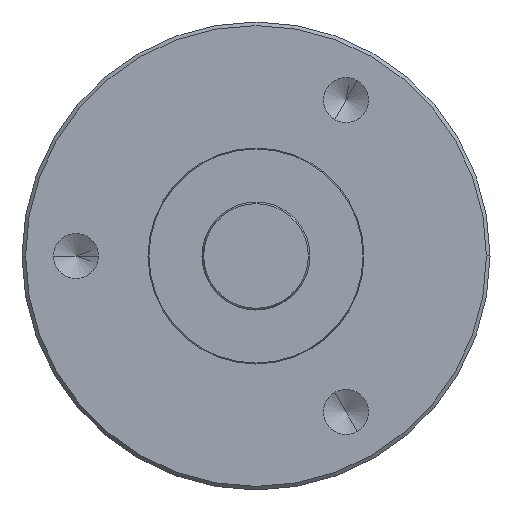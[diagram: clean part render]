
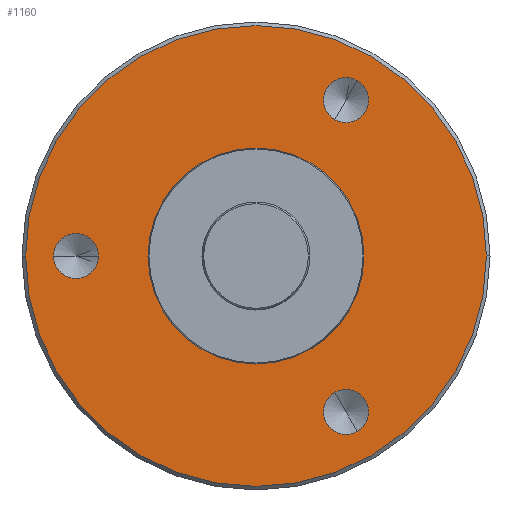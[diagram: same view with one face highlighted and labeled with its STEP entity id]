
A CAD part, left-side view. The second image highlights one B-rep face of the part: STEP entity #1160.
In plain terms, the highlighted planar face has unit normal (-1, 0, 0).
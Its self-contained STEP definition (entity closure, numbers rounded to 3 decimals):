
#339=CARTESIAN_POINT('',(0.,0.,
0.));
#340=DIRECTION('',(-1.,0.,0.));
#341=DIRECTION('',(0.,1.,0.));
#342=AXIS2_PLACEMENT_3D('',#339,#340,#341);
#344=CARTESIAN_POINT('',(0.,0.,
0.));
#345=DIRECTION('',(-1.,0.,0.));
#346=DIRECTION('',(0.,-1.,0.));
#347=AXIS2_PLACEMENT_3D('',#344,#345,#346);
#349=CARTESIAN_POINT('',(0.,5.,0.));
#350=DIRECTION('',(-1.,0.,0.));
#351=DIRECTION('',(0.,1.,0.));
#352=AXIS2_PLACEMENT_3D('',#349,#350,#351);
#354=CARTESIAN_POINT('',(0.,5.,0.));
#355=DIRECTION('',(-1.,0.,0.));
#356=DIRECTION('',(0.,-1.,0.));
#357=AXIS2_PLACEMENT_3D('',#354,#355,#356);
#359=CARTESIAN_POINT('',(0.,-2.5,4.33));
#360=DIRECTION('',(-1.,0.,0.));
#361=DIRECTION('',(0.,-0.5,0.866));
#362=AXIS2_PLACEMENT_3D('',#359,#360,#361);
#364=CARTESIAN_POINT('',(0.,-2.5,4.33));
#365=DIRECTION('',(-1.,0.,0.));
#366=DIRECTION('',(0.,0.5,-0.866));
#367=AXIS2_PLACEMENT_3D('',#364,#365,#366);
#369=CARTESIAN_POINT('',(0.,-2.5,-4.33));
#370=DIRECTION('',(-1.,0.,0.));
#371=DIRECTION('',(0.,-0.5,-0.866));
#372=AXIS2_PLACEMENT_3D('',#369,#370,#371);
#374=CARTESIAN_POINT('',(0.,-2.5,-4.33));
#375=DIRECTION('',(-1.,0.,0.));
#376=DIRECTION('',(0.,0.5,0.866));
#377=AXIS2_PLACEMENT_3D('',#374,#375,#376);
#384=CARTESIAN_POINT('',(0.,0.,0.));
#385=DIRECTION('',(-1.,0.,0.));
#386=DIRECTION('',(0.,1.,0.));
#387=AXIS2_PLACEMENT_3D('',#384,#385,#386);
#462=CARTESIAN_POINT('',(0.,0.,0.));
#463=DIRECTION('',(1.,0.,0.));
#464=DIRECTION('',(0.,1.,0.));
#465=AXIS2_PLACEMENT_3D('',#462,#463,#464);
#575=CARTESIAN_POINT('',(0.,3.,0.));
#576=CARTESIAN_POINT('',(0.,-3.,0.));
#577=VERTEX_POINT('',#575);
#578=VERTEX_POINT('',#576);
#591=CARTESIAN_POINT('',(0.,6.4,0.));
#592=CARTESIAN_POINT('',(0.,-6.4,0.));
#593=VERTEX_POINT('',#591);
#594=VERTEX_POINT('',#592);
#609=CARTESIAN_POINT('',(0.,5.625,0.));
#610=CARTESIAN_POINT('',(0.,4.375,0.));
#611=VERTEX_POINT('',#609);
#612=VERTEX_POINT('',#610);
#619=CARTESIAN_POINT('',(0.,-2.813,4.871));
#620=CARTESIAN_POINT('',(0.,-2.188,3.789));
#621=VERTEX_POINT('',#619);
#622=VERTEX_POINT('',#620);
#629=CARTESIAN_POINT('',(0.,-2.813,-4.871));
#630=CARTESIAN_POINT('',(0.,-2.188,-3.789));
#631=VERTEX_POINT('',#629);
#632=VERTEX_POINT('',#630);
#1126=CARTESIAN_POINT('',(0.,0.,0.));
#1127=DIRECTION('',(-1.,0.,0.));
#1128=DIRECTION('',(0.,1.,0.));
#1129=AXIS2_PLACEMENT_3D('',#1126,#1127,#1128);
#1130=PLANE('',#1129);
#1132=ORIENTED_EDGE('',*,*,#1131,.F.);
#1133=ORIENTED_EDGE('',*,*,#1116,.F.);
#1134=EDGE_LOOP('',(#1132,#1133));
#1135=FACE_OUTER_BOUND('',#1134,.F.);
#1137=ORIENTED_EDGE('',*,*,#1136,.T.);
#1139=ORIENTED_EDGE('',*,*,#1138,.F.);
#1140=EDGE_LOOP('',(#1137,#1139));
#1141=FACE_BOUND('',#1140,.F.);
#1143=ORIENTED_EDGE('',*,*,#1142,.T.);
#1145=ORIENTED_EDGE('',*,*,#1144,.T.);
#1146=EDGE_LOOP('',(#1143,#1145));
#1147=FACE_BOUND('',#1146,.F.);
#1149=ORIENTED_EDGE('',*,*,#1148,.T.);
#1151=ORIENTED_EDGE('',*,*,#1150,.T.);
#1152=EDGE_LOOP('',(#1149,#1151));
#1153=FACE_BOUND('',#1152,.F.);
#1155=ORIENTED_EDGE('',*,*,#1154,.T.);
#1157=ORIENTED_EDGE('',*,*,#1156,.T.);
#1158=EDGE_LOOP('',(#1155,#1157));
#1159=FACE_BOUND('',#1158,.F.);
#1160=ADVANCED_FACE('',(#1135,#1141,#1147,#1153,#1159),#1130,.T.);
#343=CIRCLE('',#342,6.4);
#348=CIRCLE('',#347,6.4);
#353=CIRCLE('',#352,0.625);
#358=CIRCLE('',#357,0.625);
#363=CIRCLE('',#362,0.625);
#368=CIRCLE('',#367,0.625);
#373=CIRCLE('',#372,0.625);
#378=CIRCLE('',#377,0.625);
#388=CIRCLE('',#387,3.);
#466=CIRCLE('',#465,3.);
#1116=EDGE_CURVE('',#594,#593,#348,.T.);
#1131=EDGE_CURVE('',#593,#594,#343,.T.);
#1136=EDGE_CURVE('',#577,#578,#388,.T.);
#1138=EDGE_CURVE('',#577,#578,#466,.T.);
#1142=EDGE_CURVE('',#611,#612,#353,.T.);
#1144=EDGE_CURVE('',#612,#611,#358,.T.);
#1148=EDGE_CURVE('',#621,#622,#363,.T.);
#1150=EDGE_CURVE('',#622,#621,#368,.T.);
#1154=EDGE_CURVE('',#631,#632,#373,.T.);
#1156=EDGE_CURVE('',#632,#631,#378,.T.);
